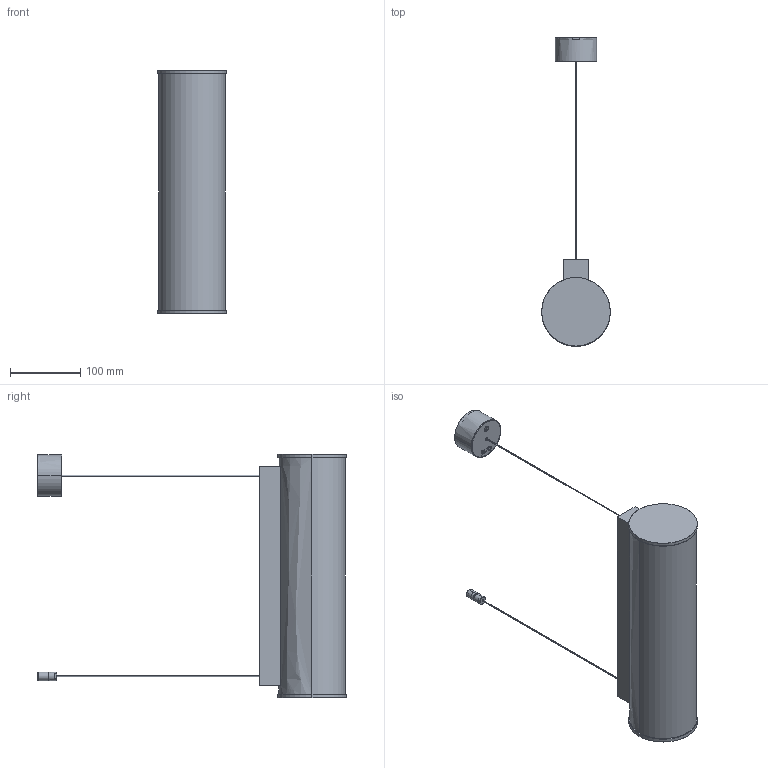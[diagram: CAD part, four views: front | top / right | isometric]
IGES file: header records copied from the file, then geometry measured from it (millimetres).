
Start section: SolidWorks IGES file using analytic representation for surfaces
Global section: file name: C:\Users\joaom\Desktop\02_3D.2D\01_2020\04_Safe\04_OS\01_OS\Suspensa\DWG_3D_OS_Suspensa.IGS; native system: SolidWorks 2020; preprocessor: SolidWorks 2020; author: joaom; date: 201109.191135; units: millimetre
Bounding box: 97.5 x 438.67 x 346 mm (x, y, z)
Surface area: 168801.7 mm2 (no closed solid volume)
Topology: 0 solids, 0 shells, 182 faces, 2799 edges, 2799 vertices
Faces by surface type: bspline 109, revolution 73
